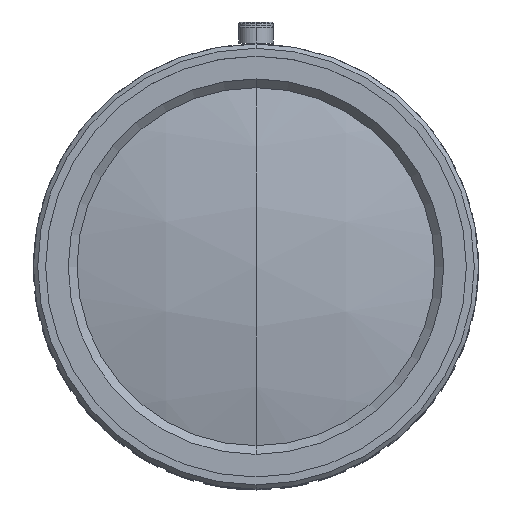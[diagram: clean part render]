
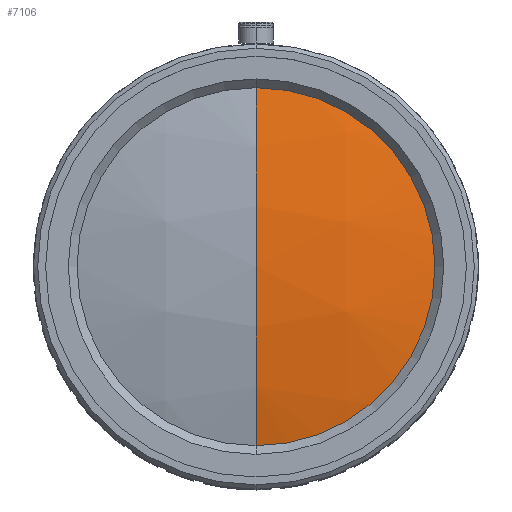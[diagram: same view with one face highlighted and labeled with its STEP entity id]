
A CAD part, top view. The second image highlights one B-rep face of the part: STEP entity #7106.
In plain terms, the highlighted spherical face has radius 83.566 mm.
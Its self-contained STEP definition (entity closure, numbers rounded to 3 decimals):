
#178 = DIRECTION ( 'NONE',  ( 0., 0., 1. ) ) ;
#926 = AXIS2_PLACEMENT_3D ( 'NONE', #11148, #5751, #178 ) ;
#2198 = EDGE_CURVE ( 'NONE', #11218, #5578, #3007, .T. ) ;
#3007 = CIRCLE ( 'NONE', #4866, 83.566 ) ;
#3498 = DIRECTION ( 'NONE',  ( 1., 0., 0. ) ) ;
#3861 = AXIS2_PLACEMENT_3D ( 'NONE', #10757, #5325, #11654 ) ;
#4098 = CARTESIAN_POINT ( 'NONE',  ( 0., 0., -10.608 ) ) ;
#4866 = AXIS2_PLACEMENT_3D ( 'NONE', #4098, #10485, #5035 ) ;
#5035 = DIRECTION ( 'NONE',  ( 0., 1., 0. ) ) ;
#5325 = DIRECTION ( 'NONE',  ( 0., 0., -1. ) ) ;
#5374 = CARTESIAN_POINT ( 'NONE',  ( 0., 0., -10.608 ) ) ;
#5578 = VERTEX_POINT ( 'NONE', #6948 ) ;
#5751 = DIRECTION ( 'NONE',  ( -1., 0., 0. ) ) ;
#6079 = CIRCLE ( 'NONE', #3861, 20.5 ) ;
#6948 = CARTESIAN_POINT ( 'NONE',  ( 0., -20.5, 70.405 ) ) ;
#6978 = VERTEX_POINT ( 'NONE', #7976 ) ;
#7106 = ADVANCED_FACE ( 'NONE', ( #11146 ), #9101, .T. ) ;
#7313 = EDGE_CURVE ( 'NONE', #11218, #6978, #7689, .T. ) ;
#7689 = CIRCLE ( 'NONE', #926, 83.566 ) ;
#7934 = ORIENTED_EDGE ( 'NONE', *, *, #10891, .F. ) ;
#7938 = ORIENTED_EDGE ( 'NONE', *, *, #7313, .F. ) ;
#7940 = CARTESIAN_POINT ( 'NONE',  ( 0., 0., 72.958 ) ) ;
#7976 = CARTESIAN_POINT ( 'NONE',  ( 0., 20.5, 70.405 ) ) ;
#8059 = AXIS2_PLACEMENT_3D ( 'NONE', #5374, #3498, #11703 ) ;
#9101 = SPHERICAL_SURFACE ( 'NONE', #8059, 83.566 ) ;
#9701 = EDGE_LOOP ( 'NONE', ( #7938, #11522, #7934 ) ) ;
#10485 = DIRECTION ( 'NONE',  ( 1., 0., 0. ) ) ;
#10757 = CARTESIAN_POINT ( 'NONE',  ( 0., 0., 70.405 ) ) ;
#10891 = EDGE_CURVE ( 'NONE', #6978, #5578, #6079, .T. ) ;
#11146 = FACE_OUTER_BOUND ( 'NONE', #9701, .T. ) ;
#11148 = CARTESIAN_POINT ( 'NONE',  ( 0., 0., -10.608 ) ) ;
#11218 = VERTEX_POINT ( 'NONE', #7940 ) ;
#11522 = ORIENTED_EDGE ( 'NONE', *, *, #2198, .T. ) ;
#11654 = DIRECTION ( 'NONE',  ( 0., 1., 0. ) ) ;
#11703 = DIRECTION ( 'NONE',  ( 0., 1., 0. ) ) ;
